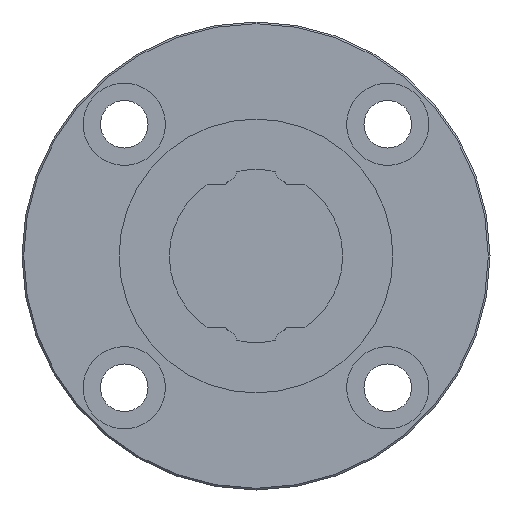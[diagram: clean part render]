
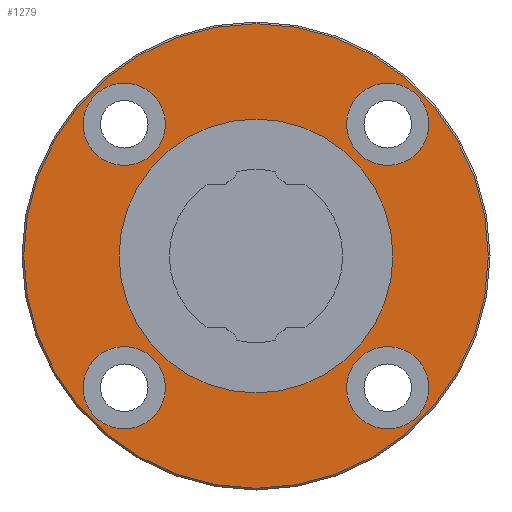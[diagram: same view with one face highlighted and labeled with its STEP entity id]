
A CAD part, left-side view. The second image highlights one B-rep face of the part: STEP entity #1279.
In plain terms, the highlighted planar face has unit normal (-1, 0, 0).
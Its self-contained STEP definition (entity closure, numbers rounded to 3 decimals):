
#48=PLANE('',#1433);
#395=ORIENTED_EDGE('',*,*,#674,.F.);
#396=ORIENTED_EDGE('',*,*,#675,.T.);
#397=ORIENTED_EDGE('',*,*,#676,.T.);
#398=ORIENTED_EDGE('',*,*,#677,.T.);
#399=ORIENTED_EDGE('',*,*,#678,.T.);
#400=ORIENTED_EDGE('',*,*,#673,.T.);
#673=EDGE_CURVE('',#825,#825,#929,.T.);
#674=EDGE_CURVE('',#826,#826,#930,.T.);
#675=EDGE_CURVE('',#827,#827,#931,.T.);
#676=EDGE_CURVE('',#828,#828,#932,.T.);
#677=EDGE_CURVE('',#829,#829,#933,.T.);
#678=EDGE_CURVE('',#830,#830,#934,.T.);
#825=VERTEX_POINT('',#2150);
#826=VERTEX_POINT('',#2153);
#827=VERTEX_POINT('',#2155);
#828=VERTEX_POINT('',#2157);
#829=VERTEX_POINT('',#2159);
#830=VERTEX_POINT('',#2161);
#929=CIRCLE('',#1432,15.8);
#930=CIRCLE('',#1434,26.8);
#931=CIRCLE('',#1435,4.75);
#932=CIRCLE('',#1436,4.75);
#933=CIRCLE('',#1437,4.75);
#934=CIRCLE('',#1438,4.75);
#1002=EDGE_LOOP('',(#395));
#1003=EDGE_LOOP('',(#396));
#1004=EDGE_LOOP('',(#397));
#1005=EDGE_LOOP('',(#398));
#1006=EDGE_LOOP('',(#399));
#1007=EDGE_LOOP('',(#400));
#1118=FACE_BOUND('',#1002,.T.);
#1119=FACE_BOUND('',#1003,.T.);
#1120=FACE_BOUND('',#1004,.T.);
#1121=FACE_BOUND('',#1005,.T.);
#1122=FACE_BOUND('',#1006,.T.);
#1123=FACE_BOUND('',#1007,.T.);
#1279=ADVANCED_FACE('',(#1118,#1119,#1120,#1121,#1122,#1123),#48,.F.);
#1432=AXIS2_PLACEMENT_3D('',#2149,#1731,#1732);
#1433=AXIS2_PLACEMENT_3D('',#2151,#1733,#1734);
#1434=AXIS2_PLACEMENT_3D('',#2152,#1735,#1736);
#1435=AXIS2_PLACEMENT_3D('',#2154,#1737,#1738);
#1436=AXIS2_PLACEMENT_3D('',#2156,#1739,#1740);
#1437=AXIS2_PLACEMENT_3D('',#2158,#1741,#1742);
#1438=AXIS2_PLACEMENT_3D('',#2160,#1743,#1744);
#1731=DIRECTION('',(1.,0.,0.));
#1732=DIRECTION('',(0.,0.,-1.));
#1733=DIRECTION('',(1.,0.,0.));
#1734=DIRECTION('',(0.,0.,-1.));
#1735=DIRECTION('',(1.,0.,0.));
#1736=DIRECTION('',(0.,0.,-1.));
#1737=DIRECTION('',(1.,0.,0.));
#1738=DIRECTION('',(0.,0.,-1.));
#1739=DIRECTION('',(1.,0.,0.));
#1740=DIRECTION('',(0.,0.,-1.));
#1741=DIRECTION('',(1.,0.,0.));
#1742=DIRECTION('',(0.,0.,-1.));
#1743=DIRECTION('',(1.,0.,0.));
#1744=DIRECTION('',(0.,0.,-1.));
#2149=CARTESIAN_POINT('',(-23.7,0.,0.));
#2150=CARTESIAN_POINT('',(-23.7,0.,-15.8));
#2151=CARTESIAN_POINT('',(-23.7,15.8,0.));
#2152=CARTESIAN_POINT('',(-23.7,0.,0.));
#2153=CARTESIAN_POINT('',(-23.7,0.,-26.8));
#2154=CARTESIAN_POINT('',(-23.7,-15.203,15.203));
#2155=CARTESIAN_POINT('',(-23.7,-15.203,10.453));
#2156=CARTESIAN_POINT('',(-23.7,-15.203,-15.203));
#2157=CARTESIAN_POINT('',(-23.7,-15.203,-19.953));
#2158=CARTESIAN_POINT('',(-23.7,15.203,-15.203));
#2159=CARTESIAN_POINT('',(-23.7,15.203,-19.953));
#2160=CARTESIAN_POINT('',(-23.7,15.203,15.203));
#2161=CARTESIAN_POINT('',(-23.7,15.203,10.453));
